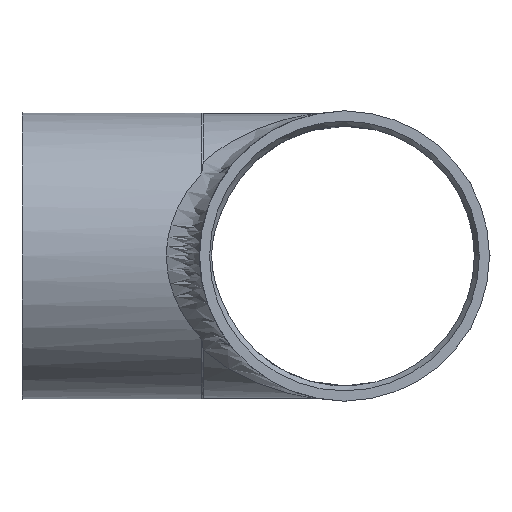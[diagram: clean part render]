
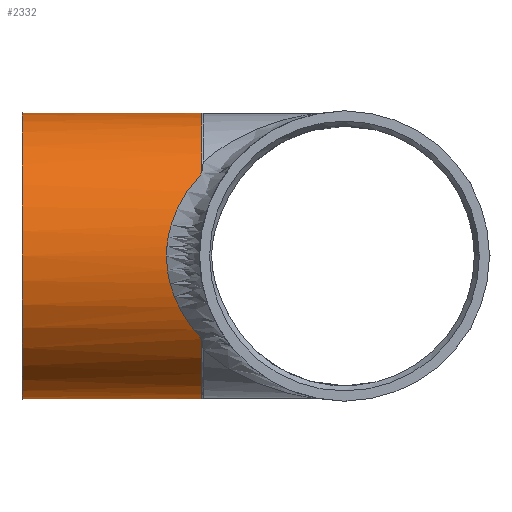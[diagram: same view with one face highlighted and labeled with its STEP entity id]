
A CAD part, left-side view. The second image highlights one B-rep face of the part: STEP entity #2332.
In plain terms, the highlighted cylindrical face has radius 17.1 mm (diameter 34.2 mm), a full revolution.
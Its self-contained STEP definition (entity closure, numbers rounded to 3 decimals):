
#2201=CARTESIAN_POINT('',(13.927,17.032,-9.922));
#2202=VERTEX_POINT('',#2201);
#2219=CARTESIAN_POINT('',(-13.927,17.032,-9.922));
#2220=VERTEX_POINT('',#2219);
#2228=CARTESIAN_POINT('',(0.,17.032,0.0));
#2229=DIRECTION('',(0.0,1.0,0.0));
#2230=DIRECTION('',(-1.0,0.0,0.0));
#2231=AXIS2_PLACEMENT_3D('',#2228,#2229,#2230);
#2232=CIRCLE('',#2231,17.1);
#2233=EDGE_CURVE('',#2202,#2220,#2232,.T.);
#2243=CARTESIAN_POINT('',(13.927,17.032,9.922));
#2244=VERTEX_POINT('',#2243);
#2254=CARTESIAN_POINT('',(-13.927,17.032,9.922));
#2255=VERTEX_POINT('',#2254);
#2256=CARTESIAN_POINT('',(0.,17.032,0.0));
#2257=DIRECTION('',(0.0,1.0,0.0));
#2258=DIRECTION('',(-1.0,0.0,0.0));
#2259=AXIS2_PLACEMENT_3D('',#2256,#2257,#2258);
#2260=CIRCLE('',#2259,17.1);
#2261=EDGE_CURVE('',#2255,#2244,#2260,.T.);
#2282=CARTESIAN_POINT('',(0.,27.766,0.0));
#2283=DIRECTION('',(0.,1.0,0.0));
#2284=DIRECTION('',(-1.0,0.0,0.0));
#2285=AXIS2_PLACEMENT_3D('',#2282,#2283,#2284);
#2286=CYLINDRICAL_SURFACE('',#2285,17.1);
#2287=CARTESIAN_POINT('',(-17.1,38.5,0.0));
#2288=VERTEX_POINT('',#2287);
#2289=CARTESIAN_POINT('',(0.,38.5,0.0));
#2290=DIRECTION('',(0.0,1.0,0.0));
#2291=DIRECTION('',(-1.0,0.0,0.0));
#2292=AXIS2_PLACEMENT_3D('',#2289,#2290,#2291);
#2293=CIRCLE('',#2292,17.1);
#2294=EDGE_CURVE('',#2288,#2288,#2293,.T.);
#2295=ORIENTED_EDGE('',*,*,#2294,.F.);
#2296=EDGE_LOOP('',(#2295));
#2297=FACE_OUTER_BOUND('',#2296,.T.);
#2298=CARTESIAN_POINT('',(13.927,17.032,-9.922));
#2299=CARTESIAN_POINT('',(14.564,17.869,-9.028));
#2300=CARTESIAN_POINT('',(15.148,18.643,-8.026));
#2301=CARTESIAN_POINT('',(16.16,19.99,-5.738));
#2302=CARTESIAN_POINT('',(16.574,20.547,-4.441));
#2303=CARTESIAN_POINT('',(17.06,21.201,-1.753));
#2304=CARTESIAN_POINT('',(17.147,21.319,-0.425));
#2305=CARTESIAN_POINT('',(16.996,21.115,2.387));
#2306=CARTESIAN_POINT('',(16.731,20.757,3.79));
#2307=CARTESIAN_POINT('',(15.784,19.488,6.821));
#2308=CARTESIAN_POINT('',(14.978,18.413,8.447));
#2309=CARTESIAN_POINT('',(13.927,17.032,9.922));
#2310=B_SPLINE_CURVE_WITH_KNOTS('',3,(#2298,#2299,#2300,#2301,#2302,#2303,#2304,#2305,#2306,#2307,#2308,#2309),.UNSPECIFIED.,.F.,.U.,(4,2,2,2,2,4),(-2.677,-2.192,-1.678,-1.203,-0.683,0.0),.UNSPECIFIED.);
#2311=EDGE_CURVE('',#2202,#2244,#2310,.T.);
#2312=ORIENTED_EDGE('',*,*,#2311,.F.);
#2313=ORIENTED_EDGE('',*,*,#2233,.T.);
#2314=CARTESIAN_POINT('',(-13.927,17.032,9.922));
#2315=CARTESIAN_POINT('',(-14.559,17.862,9.035));
#2316=CARTESIAN_POINT('',(-15.139,18.631,8.041));
#2317=CARTESIAN_POINT('',(-16.155,19.983,5.756));
#2318=CARTESIAN_POINT('',(-16.573,20.546,4.449));
#2319=CARTESIAN_POINT('',(-17.061,21.202,1.749));
#2320=CARTESIAN_POINT('',(-17.147,21.319,0.423));
#2321=CARTESIAN_POINT('',(-16.996,21.115,-2.389));
#2322=CARTESIAN_POINT('',(-16.731,20.756,-3.792));
#2323=CARTESIAN_POINT('',(-15.783,19.487,-6.823));
#2324=CARTESIAN_POINT('',(-14.977,18.412,-8.448));
#2325=CARTESIAN_POINT('',(-13.927,17.032,-9.922));
#2326=B_SPLINE_CURVE_WITH_KNOTS('',3,(#2314,#2315,#2316,#2317,#2318,#2319,#2320,#2321,#2322,#2323,#2324,#2325),.UNSPECIFIED.,.F.,.U.,(4,2,2,2,2,4),(-2.676,-2.196,-1.677,-1.203,-0.683,0.0),.UNSPECIFIED.);
#2327=EDGE_CURVE('',#2255,#2220,#2326,.T.);
#2328=ORIENTED_EDGE('',*,*,#2327,.F.);
#2329=ORIENTED_EDGE('',*,*,#2261,.T.);
#2330=EDGE_LOOP('',(#2312,#2313,#2328,#2329));
#2331=FACE_BOUND('',#2330,.T.);
#2332=ADVANCED_FACE('',(#2297,#2331),#2286,.T.);
